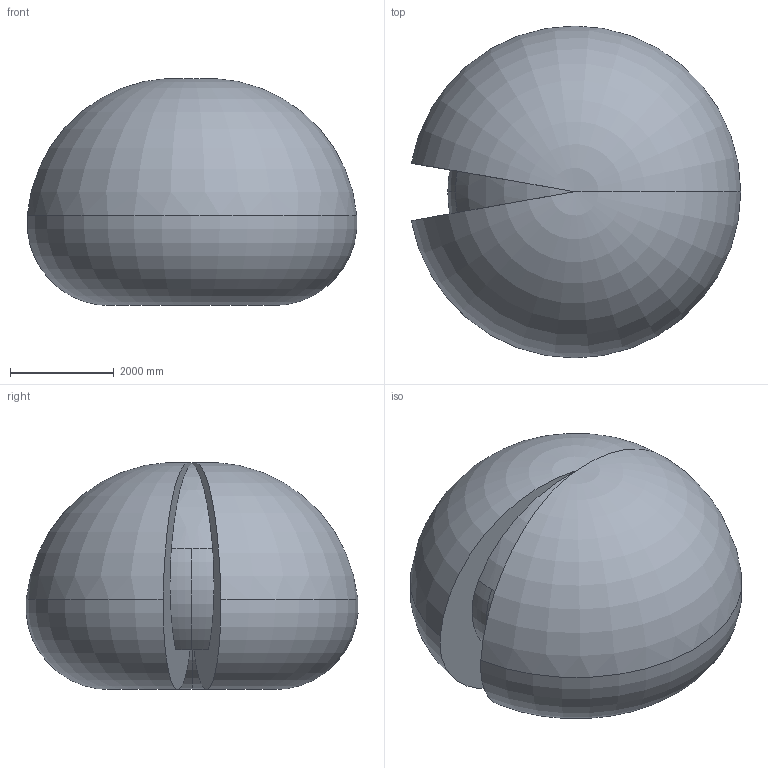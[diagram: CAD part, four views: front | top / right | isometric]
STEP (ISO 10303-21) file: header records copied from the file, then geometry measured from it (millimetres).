
FILE_DESCRIPTION (( 'STEP AP214' ), '1' );
FILE_NAME ('IRB6720-LID-MH_140kg-320_OC_00_Working-space.step', '2026-06-10T12:00:15', ( '' ), ( '' ), 'SwSTEP 2.0', 'SolidWorks 2024', '' );
FILE_SCHEMA (( 'AUTOMOTIVE_DESIGN' ));
Length unit declared in the file: millimetre
Products named in the file (1): IRB6720-LID-MH_140kg-320_OC_00_Working-space
Bounding box: 6341.15 x 6389.68 x 4367.91 mm (x, y, z)
Volume: 92407837060.1 mm3; surface area: 135529091.7 mm2
Topology: 1 solids, 1 shells, 18 faces, 46 edges, 24 vertices
Faces by surface type: torus 16, plane 2
Entity records: 542 total; most frequent: DIRECTION 117, CARTESIAN_POINT 83, ORIENTED_EDGE 80, AXIS2_PLACEMENT_3D 58, EDGE_CURVE 40, CIRCLE 39, VERTEX_POINT 24, FACE_OUTER_BOUND 18
